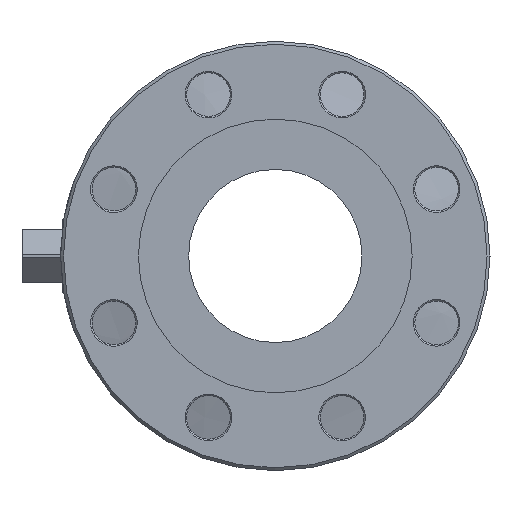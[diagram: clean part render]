
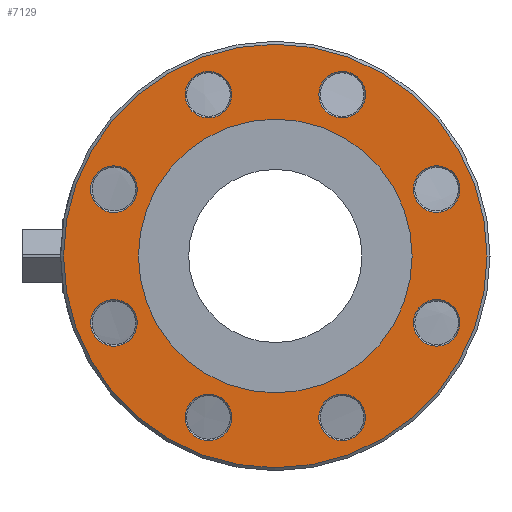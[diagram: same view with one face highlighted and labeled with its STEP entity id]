
A CAD part, left-side view. The second image highlights one B-rep face of the part: STEP entity #7129.
In plain terms, the highlighted planar face has unit normal (-1, 0, 0).
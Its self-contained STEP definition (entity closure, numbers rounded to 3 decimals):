
#6990=CARTESIAN_POINT('',(-127.,-57.236,-122.179));
#6991=VERTEX_POINT('',#6990);
#6992=CARTESIAN_POINT('',(-127.,-45.922,-110.866));
#6993=DIRECTION('',(-1.0,0.0,0.0));
#6994=DIRECTION('',(0.0,0.707,0.707));
#6995=AXIS2_PLACEMENT_3D('',#6992,#6993,#6994);
#6996=CIRCLE('',#6995,16.);
#6997=EDGE_CURVE('',#6991,#6991,#6996,.T.);
#7022=CARTESIAN_POINT('',(-127.,-119.75,0.0));
#7023=DIRECTION('',(-1.0,0.0,0.0));
#7024=DIRECTION('',(0.0,0.0,1.0));
#7025=AXIS2_PLACEMENT_3D('',#7022,#7023,#7024);
#7026=PLANE('',#7025);
#7027=CARTESIAN_POINT('',(-127.,-145.5,0.0));
#7028=VERTEX_POINT('',#7027);
#7029=CARTESIAN_POINT('',(-127.,0.0,0.0));
#7030=DIRECTION('',(1.0,0.0,0.0));
#7031=DIRECTION('',(0.0,-1.0,0.0));
#7032=AXIS2_PLACEMENT_3D('',#7029,#7030,#7031);
#7033=CIRCLE('',#7032,145.5);
#7034=EDGE_CURVE('',#7028,#7028,#7033,.T.);
#7035=ORIENTED_EDGE('',*,*,#7034,.F.);
#7036=EDGE_LOOP('',(#7035));
#7037=FACE_OUTER_BOUND('',#7036,.T.);
#7038=CARTESIAN_POINT('',(-127.,-126.866,-45.922));
#7039=VERTEX_POINT('',#7038);
#7040=CARTESIAN_POINT('',(-127.,-110.866,-45.922));
#7041=DIRECTION('',(-1.0,0.0,0.0));
#7042=DIRECTION('',(0.0,1.0,0.0));
#7043=AXIS2_PLACEMENT_3D('',#7040,#7041,#7042);
#7044=CIRCLE('',#7043,16.);
#7045=EDGE_CURVE('',#7039,#7039,#7044,.T.);
#7046=ORIENTED_EDGE('',*,*,#7045,.F.);
#7047=EDGE_LOOP('',(#7046));
#7048=FACE_BOUND('',#7047,.T.);
#7049=CARTESIAN_POINT('',(-127.,-45.922,126.866));
#7050=VERTEX_POINT('',#7049);
#7051=CARTESIAN_POINT('',(-127.,-45.922,110.866));
#7052=DIRECTION('',(-1.0,0.0,0.0));
#7053=DIRECTION('',(0.0,0.0,-1.0));
#7054=AXIS2_PLACEMENT_3D('',#7051,#7052,#7053);
#7055=CIRCLE('',#7054,16.);
#7056=EDGE_CURVE('',#7050,#7050,#7055,.T.);
#7057=ORIENTED_EDGE('',*,*,#7056,.F.);
#7058=EDGE_LOOP('',(#7057));
#7059=FACE_BOUND('',#7058,.T.);
#7060=CARTESIAN_POINT('',(-127.,126.866,45.922));
#7061=VERTEX_POINT('',#7060);
#7062=CARTESIAN_POINT('',(-127.,110.866,45.922));
#7063=DIRECTION('',(-1.0,0.0,0.0));
#7064=DIRECTION('',(0.0,-1.0,0.0));
#7065=AXIS2_PLACEMENT_3D('',#7062,#7063,#7064);
#7066=CIRCLE('',#7065,16.);
#7067=EDGE_CURVE('',#7061,#7061,#7066,.T.);
#7068=ORIENTED_EDGE('',*,*,#7067,.F.);
#7069=EDGE_LOOP('',(#7068));
#7070=FACE_BOUND('',#7069,.T.);
#7071=CARTESIAN_POINT('',(-127.,45.922,-126.866));
#7072=VERTEX_POINT('',#7071);
#7073=CARTESIAN_POINT('',(-127.,45.922,-110.866));
#7074=DIRECTION('',(-1.0,0.0,0.0));
#7075=DIRECTION('',(0.0,0.0,1.0));
#7076=AXIS2_PLACEMENT_3D('',#7073,#7074,#7075);
#7077=CIRCLE('',#7076,16.);
#7078=EDGE_CURVE('',#7072,#7072,#7077,.T.);
#7079=ORIENTED_EDGE('',*,*,#7078,.F.);
#7080=EDGE_LOOP('',(#7079));
#7081=FACE_BOUND('',#7080,.T.);
#7082=CARTESIAN_POINT('',(-127.,-94.,0.0));
#7083=VERTEX_POINT('',#7082);
#7084=CARTESIAN_POINT('',(-127.,0.0,0.0));
#7085=DIRECTION('',(1.0,0.0,0.0));
#7086=DIRECTION('',(0.0,-1.0,0.0));
#7087=AXIS2_PLACEMENT_3D('',#7084,#7085,#7086);
#7088=CIRCLE('',#7087,94.);
#7089=EDGE_CURVE('',#7083,#7083,#7088,.T.);
#7090=ORIENTED_EDGE('',*,*,#7089,.T.);
#7091=EDGE_LOOP('',(#7090));
#7092=FACE_BOUND('',#7091,.T.);
#7093=CARTESIAN_POINT('',(-127.,122.179,-57.236));
#7094=VERTEX_POINT('',#7093);
#7095=CARTESIAN_POINT('',(-127.,110.866,-45.922));
#7096=DIRECTION('',(-1.0,0.0,0.0));
#7097=DIRECTION('',(0.0,-0.707,0.707));
#7098=AXIS2_PLACEMENT_3D('',#7095,#7096,#7097);
#7099=CIRCLE('',#7098,16.);
#7100=EDGE_CURVE('',#7094,#7094,#7099,.T.);
#7101=ORIENTED_EDGE('',*,*,#7100,.F.);
#7102=EDGE_LOOP('',(#7101));
#7103=FACE_BOUND('',#7102,.T.);
#7104=CARTESIAN_POINT('',(-127.,57.236,122.179));
#7105=VERTEX_POINT('',#7104);
#7106=CARTESIAN_POINT('',(-127.,45.922,110.866));
#7107=DIRECTION('',(-1.0,0.0,0.0));
#7108=DIRECTION('',(0.0,-0.707,-0.707));
#7109=AXIS2_PLACEMENT_3D('',#7106,#7107,#7108);
#7110=CIRCLE('',#7109,16.);
#7111=EDGE_CURVE('',#7105,#7105,#7110,.T.);
#7112=ORIENTED_EDGE('',*,*,#7111,.F.);
#7113=EDGE_LOOP('',(#7112));
#7114=FACE_BOUND('',#7113,.T.);
#7115=CARTESIAN_POINT('',(-127.,-122.179,57.236));
#7116=VERTEX_POINT('',#7115);
#7117=CARTESIAN_POINT('',(-127.,-110.866,45.922));
#7118=DIRECTION('',(-1.0,0.0,0.0));
#7119=DIRECTION('',(0.0,0.707,-0.707));
#7120=AXIS2_PLACEMENT_3D('',#7117,#7118,#7119);
#7121=CIRCLE('',#7120,16.);
#7122=EDGE_CURVE('',#7116,#7116,#7121,.T.);
#7123=ORIENTED_EDGE('',*,*,#7122,.F.);
#7124=EDGE_LOOP('',(#7123));
#7125=FACE_BOUND('',#7124,.T.);
#7126=ORIENTED_EDGE('',*,*,#6997,.F.);
#7127=EDGE_LOOP('',(#7126));
#7128=FACE_BOUND('',#7127,.T.);
#7129=ADVANCED_FACE('',(#7037,#7048,#7059,#7070,#7081,#7092,#7103,#7114,#7125,#7128),#7026,.T.);
